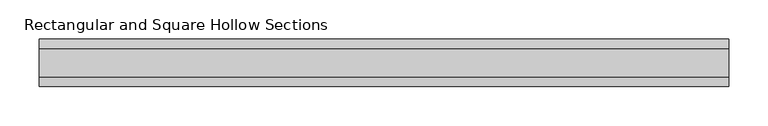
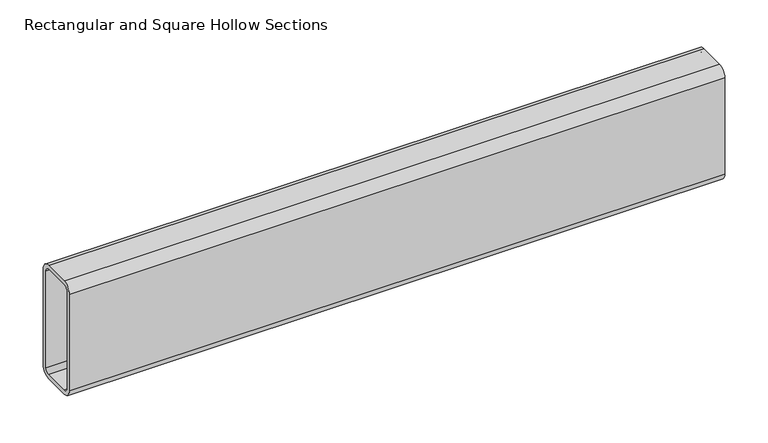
"""IFC4 building model written with IfcOpenShell, lengths in millimetres: beam geometry, Rectangular and Square Hollow Sections : TREC160x60x6."""

from ifc_helpers import new_model, si_unit, point, frame, frame_2d, origin, place, context, project, spatial, polyline, circle_curve, trimmed, segment, composite_curve, outline, extrude, source, transform, mapped, element, save


def rectangular_and_square_hollow_sections_368dba11(model_context):
    return source(origin(), model_context, "Body", "SweptSolid", [
        extrude(outline(composite_curve([segment(polyline([(30.0, 68.0), (30.0, -68.0)]), True, "CONTINUOUS"), segment(trimmed(circle_curve(frame_2d((18.0, -68.0)), 12.0), [point((30.0, -68.0))], [point((18.0, -80.0))], False, "CARTESIAN"), True, "CONTINUOUS"), segment(polyline([(18.0, -80.0), (-18.0, -80.0)]), True, "CONTINUOUS"), segment(trimmed(circle_curve(frame_2d((-18.0, -68.0)), 12.0), [point((-18.0, -80.0))], [point((-30.0, -68.0))], False, "CARTESIAN"), True, "CONTINUOUS"), segment(polyline([(-30.0, -68.0), (-30.0, 68.0)]), True, "CONTINUOUS"), segment(trimmed(circle_curve(frame_2d((-18.0, 68.0)), 12.0), [point((-30.0, 68.0))], [point((-18.0, 80.0))], False, "CARTESIAN"), True, "CONTINUOUS"), segment(polyline([(-18.0, 80.0), (18.0, 80.0)]), True, "CONTINUOUS"), segment(trimmed(circle_curve(frame_2d((18.0, 68.0)), 12.0), [point((18.0, 80.0))], [point((30.0, 68.0))], False, "CARTESIAN"), True, "CONTINUOUS")], self_intersect=False), holes=[composite_curve([segment(trimmed(circle_curve(frame_2d((-18.0, 68.0)), 6.0), [point((-18.0, 74.0))], [point((-24.0, 68.0))], True, "CARTESIAN"), True, "CONTINUOUS"), segment(polyline([(-24.0, 68.0), (-24.0, -68.0)]), True, "CONTINUOUS"), segment(trimmed(circle_curve(frame_2d((-18.0, -68.0)), 6.0), [point((-24.0, -68.0))], [point((-18.0, -74.0))], True, "CARTESIAN"), True, "CONTINUOUS"), segment(polyline([(-18.0, -74.0), (18.0, -74.0)]), True, "CONTINUOUS"), segment(trimmed(circle_curve(frame_2d((18.0, -68.0)), 6.0), [point((18.0, -74.0))], [point((24.0, -68.0))], True, "CARTESIAN"), True, "CONTINUOUS"), segment(polyline([(24.0, -68.0), (24.0, 68.0)]), True, "CONTINUOUS"), segment(trimmed(circle_curve(frame_2d((18.0, 68.0)), 6.0), [point((24.0, 68.0))], [point((18.0, 74.0))], True, "CARTESIAN"), True, "CONTINUOUS"), segment(polyline([(18.0, 74.0), (-18.0, 74.0)]), True, "CONTINUOUS")], self_intersect=False)]), frame((-436.5, 0.0, 0.0), z_axis=(1.0, 0.0, 0.0), x_axis=(0.0, 1.0, 0.0)), (0.0, 0.0, 1.0), 873.0),
    ])


if __name__ == "__main__":
    model = new_model("IFC4")
    model_context = context("Model", 3, world=origin())
    ifc_project = project(units=[si_unit("LENGTHUNIT", "METRE", prefix="MILLI")], contexts=[model_context])
    site = spatial("IfcSite", under=ifc_project)
    building = spatial("IfcBuilding", under=site)
    placement = place(None, origin())
    rectangular_and_square_hollow_sections_shape = rectangular_and_square_hollow_sections_368dba11(model_context)
    element("IfcBeam", 1, ObjectType="Rectangular and Square Hollow Sections : TREC160x60x6", at=placement, inside=building, context=model_context, shape_type="MappedRepresentation", body=[
        mapped(rectangular_and_square_hollow_sections_shape, transform((0.0, 0.0, 0.0), x_axis=(1.0, 0.0, 0.0), y_axis=(0.0, 1.0, 0.0), z_axis=(0.0, 0.0, 1.0))),
    ])
    save(model, "model.ifc")
